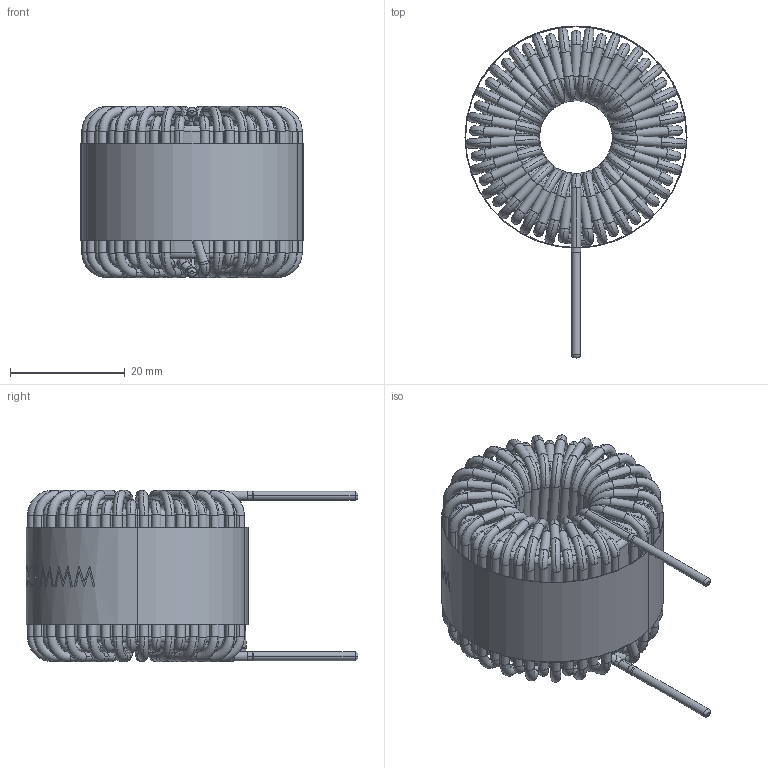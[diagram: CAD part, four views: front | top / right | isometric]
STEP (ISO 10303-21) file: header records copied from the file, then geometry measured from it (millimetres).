
FILE_DESCRIPTION (( 'STEP AP214' ), '1' );
FILE_NAME ('HF3302-601M-8.0AV.step', '2021-03-04T09:50:30', ( '' ), ( '' ), 'SwSTEP 2.0', 'SolidWorks 2015', '' );
FILE_SCHEMA (( 'AUTOMOTIVE_DESIGN' ));
Length unit declared in the file: millimetre
Products named in the file (4): CORE; HF3302-601M-8.0AV; WINDING; WRAPPER
Assembly tree (3 placements, depth 2):
  HF3302-601M-8.0AV
    CORE
    WINDING
    WRAPPER
Bounding box: 38.65 x 57.77 x 29.8 mm (x, y, z)
Volume: 22079.4 mm3; surface area: 28488.3 mm2
Topology: 50 solids, 50 shells, 1252 faces, 3342 edges, 2210 vertices
Faces by surface type: cylinder 557, torus 451, plane 141, bspline 103
Entity records: 57317 total; most frequent: CARTESIAN_POINT 17558, DIRECTION 7703, ORIENTED_EDGE 6684, AXIS2_PLACEMENT_3D 3571, EDGE_CURVE 3342, CIRCLE 2416, VERTEX_POINT 2210, EDGE_LOOP 1292
